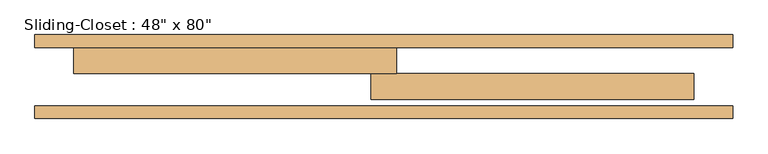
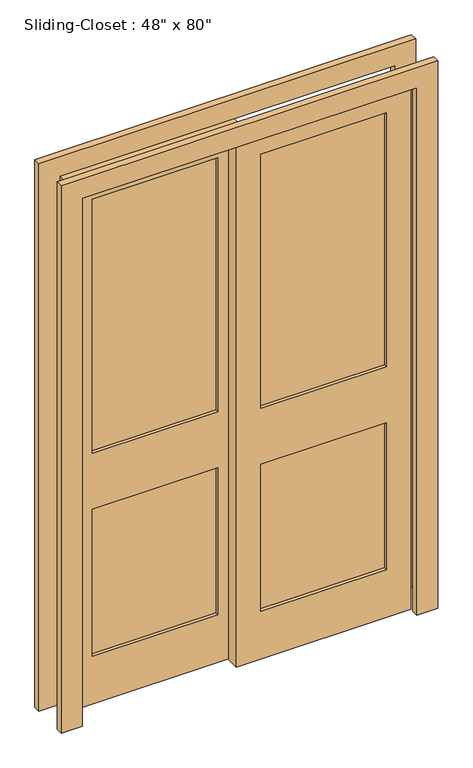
"""IFC4 building model written with IfcOpenShell, lengths in millimetres: door geometry."""

import ifcopenshell
import ifcopenshell.guid

model = None  # the IFC model being written
_history = None  # IfcOwnerHistory: only IFC2X3 demands one
_inside = {}  # id of a spatial element -> (the spatial element, [elements in it])
_under = {}  # id of a project, library or spatial element -> (it, [spatial elements below it])
_declared = {}  # id of a project -> (the project, [libraries it declares])
_typed = {}  # id of a type object -> (the type object, [elements of that type])
_made_of = {}  # id of a material, layer set ... -> (it, [elements and type objects made of it])


def new_model(schema):
    """Start an empty IFC model of exactly this schema.

    Asked for "IFC4X3", IfcOpenShell would pick the latest addendum, in which some entities
    have other attributes; the version numbers below select the first issue.
    IFC2X3 requires an IfcOwnerHistory on every rooted entity: one is made here for all.
    """
    global model, _history
    if schema == "IFC4X3":
        model = ifcopenshell.file(schema_version=(4, 3, 0, 0))
    else:
        model = ifcopenshell.file(schema=schema)
    _inside.clear()
    _under.clear()
    _declared.clear()
    _typed.clear()
    _made_of.clear()
    _history = None
    if model.schema == "IFC2X3":
        org = make("IfcOrganization", Name="unknown")
        user = make(
            "IfcPersonAndOrganization",
            ThePerson=make("IfcPerson", FamilyName="unknown"),
            TheOrganization=org,
        )
        app = make(
            "IfcApplication",
            ApplicationDeveloper=org,
            Version="unknown",
            ApplicationFullName="unknown",
            ApplicationIdentifier="unknown",
        )
        _history = make(
            "IfcOwnerHistory",
            OwningUser=user,
            OwningApplication=app,
            ChangeAction="ADDED",
            CreationDate=0,
        )
    return model


def make(cls, **values):
    """One entity of the class cls with the attributes given. An attribute that is None is left unset."""
    return model.create_entity(
        cls, **{name: value for name, value in values.items() if value is not None}
    )


def rooted(cls, **values):
    """An entity with a GlobalId (a new one), such as an element, a storey or a relation."""
    return make(cls, GlobalId=ifcopenshell.guid.new(), OwnerHistory=_history, **values)


def si_unit(unit_type, name, prefix=None):
    """IfcSIUnit, for example si_unit("LENGTHUNIT", "METRE", prefix="MILLI")."""
    return make("IfcSIUnit", UnitType=unit_type, Prefix=prefix, Name=name)


def assignment(units):
    """IfcUnitAssignment: the units of a project."""
    return None if units is None else make("IfcUnitAssignment", Units=units)


def point(xyz):
    """IfcCartesianPoint."""
    return None if xyz is None else make("IfcCartesianPoint", Coordinates=xyz)


def direction(xyz):
    """IfcDirection."""
    return None if xyz is None else make("IfcDirection", DirectionRatios=xyz)


def frame(location, z_axis=None, x_axis=None):
    """IfcAxis2Placement3D, a coordinate frame: its origin and axes. An axis left out is left unset."""
    return make(
        "IfcAxis2Placement3D",
        Location=point(location),
        Axis=direction(z_axis),
        RefDirection=direction(x_axis),
    )


def origin():
    """The frame at (0, 0, 0) with its axes left unset."""
    return frame((0.0, 0.0, 0.0))


def place(relative_to, where):
    """IfcLocalPlacement: puts the frame where relative to a parent placement (None: the world)."""
    return make(
        "IfcLocalPlacement", PlacementRelTo=relative_to, RelativePlacement=where
    )


def context(
    kind, dimensions, precision=None, world=None, true_north=None, identifier=None
):
    """IfcGeometricRepresentationContext, for example the 3D "Model" context."""
    return make(
        "IfcGeometricRepresentationContext",
        ContextIdentifier=identifier,
        ContextType=kind,
        CoordinateSpaceDimension=dimensions,
        Precision=precision,
        WorldCoordinateSystem=world,
        TrueNorth=true_north,
    )


def project(units=None, contexts=None):
    """IfcProject with its units and contexts."""
    return rooted(
        "IfcProject",
        Name="project",
        RepresentationContexts=contexts,
        UnitsInContext=assignment(units),
    )


def spatial(cls, under=None, at=None, **own):
    """A site, building, storey or space (cls), placed at a placement, below another one or the project."""
    s = rooted(cls, ObjectPlacement=at, **own)
    if under is not None:
        _under.setdefault(under.id(), (under, []))[1].append(s)
    return s


def polyline(points):
    """IfcPolyline through the points."""
    return make("IfcPolyline", Points=[point(p) for p in points])


def outline(outer, holes=None, kind="AREA"):
    """IfcArbitraryClosedProfileDef: a profile drawn as a closed curve; with holes, ...WithVoids."""
    if holes is None:
        return make("IfcArbitraryClosedProfileDef", ProfileType=kind, OuterCurve=outer)
    return make(
        "IfcArbitraryProfileDefWithVoids",
        ProfileType=kind,
        OuterCurve=outer,
        InnerCurves=holes,
    )


def extrude(swept, where, along, depth):
    """IfcExtrudedAreaSolid: the profile swept, set in the frame where, extruded along a direction by depth."""
    return make(
        "IfcExtrudedAreaSolid",
        SweptArea=swept,
        Position=where,
        ExtrudedDirection=direction(along),
        Depth=depth,
    )


def shape(context_of_items, identifier, shape_type, items):
    """IfcShapeRepresentation: the items that make up one representation, for example the "Body"."""
    return make(
        "IfcShapeRepresentation",
        ContextOfItems=context_of_items,
        RepresentationIdentifier=identifier,
        RepresentationType=shape_type,
        Items=items,
    )


def source(mapping_origin, context_of_items, identifier, shape_type, items):
    """IfcRepresentationMap: a shape defined once, which mapped items show again and again."""
    return make(
        "IfcRepresentationMap",
        MappingOrigin=mapping_origin,
        MappedRepresentation=shape(context_of_items, identifier, shape_type, items),
    )


def transform(
    local_origin,
    x_axis=None,
    y_axis=None,
    z_axis=None,
    scale=None,
    scale2=None,
    scale3=None,
    uniform=True,
):
    """IfcCartesianTransformationOperator3D, or its non-uniform kind. x_axis, y_axis, z_axis: its Axis1, 2, 3."""
    if uniform:
        return make(
            "IfcCartesianTransformationOperator3D",
            Axis1=direction(x_axis),
            Axis2=direction(y_axis),
            LocalOrigin=point(local_origin),
            Scale=scale,
            Axis3=direction(z_axis),
        )
    return make(
        "IfcCartesianTransformationOperator3DnonUniform",
        Axis1=direction(x_axis),
        Axis2=direction(y_axis),
        LocalOrigin=point(local_origin),
        Scale=scale,
        Axis3=direction(z_axis),
        Scale2=scale2,
        Scale3=scale3,
    )


def mapped(mapping_source, mapping_target):
    """IfcMappedItem: shows the shape of a source again, moved by a transform."""
    return make(
        "IfcMappedItem", MappingSource=mapping_source, MappingTarget=mapping_target
    )


def made_of(thing, what):
    """Note that an element or type object is made of a material, layer set ...; save() writes the relation."""
    if what is not None:
        _made_of.setdefault(what.id(), (what, []))[1].append(thing)
    return thing


def element(
    cls,
    number,
    at=None,
    inside=None,
    cuts=None,
    type_object=None,
    material=None,
    context=None,
    identifier="Body",
    shape_type=None,
    held_by="IfcProductDefinitionShape",
    body=None,
    shapes=None,
    **own,
):
    """One element of the class cls, such as IfcWall. Its Tag is "e" and its number.

    at: its placement. inside: the storey or other place that contains it. cuts: it is an
    opening in that element (IfcRelVoidsElement). A single representation is given by context,
    identifier, shape_type and body (its items); several are given by shapes. held_by: the class
    of the entity that holds the representations. save() writes the other relations.
    """
    e = rooted(cls, Tag="e%d" % number, ObjectPlacement=at, **own)
    if body is not None:
        shapes = [shape(context, identifier, shape_type, body)]
    if shapes is not None:
        e.Representation = make(held_by, Representations=shapes)
    if inside is not None:
        _inside.setdefault(inside.id(), (inside, []))[1].append(e)
    if cuts is not None:
        rooted(
            "IfcRelVoidsElement", RelatingBuildingElement=cuts, RelatedOpeningElement=e
        )
    if type_object is not None:
        _typed.setdefault(type_object.id(), (type_object, []))[1].append(e)
    return made_of(e, material)


def aggregate(whole, parts):
    """IfcRelAggregates: a whole, such as a stair, and the parts it consists of."""
    return rooted("IfcRelAggregates", RelatingObject=whole, RelatedObjects=parts)


def save(model, path):
    """Write the relations noted so far, then the file.

    IfcRelAggregates (storeys below a building ...), IfcRelContainedInSpatialStructure (elements
    in a storey), IfcRelDefinesByType, IfcRelAssociatesMaterial and IfcRelDeclares: one each for
    every whole, place, type object, material and project.
    """
    for whole, parts in _under.values():
        aggregate(whole, parts)
    for where, things in _inside.values():
        rooted(
            "IfcRelContainedInSpatialStructure",
            RelatedElements=things,
            RelatingStructure=where,
        )
    for kind, things in _typed.values():
        rooted("IfcRelDefinesByType", RelatedObjects=things, RelatingType=kind)
    for what, things in _made_of.values():
        rooted("IfcRelAssociatesMaterial", RelatedObjects=things, RelatingMaterial=what)
    for by, libraries in _declared.values():
        rooted("IfcRelDeclares", RelatingContext=by, RelatedDefinitions=libraries)
    model.write(path)


def door_900f836f(model_context):
    return source(origin(), model_context, "Body", "SweptSolid", [
        extrude(outline(polyline([(-63.5, 146.05), (-520.7, 146.05), (-520.7, 171.45), (-63.5, 171.45), (-63.5, 146.05)])), frame((0.0, 0.0, 965.2), z_axis=(0.0, 0.0, 1.0), x_axis=(1.0, 0.0, 0.0)), (0.0, 0.0, 1.0), 977.9),
        extrude(outline(polyline([(-63.5, 146.05), (-520.7, 146.05), (-520.7, 171.45), (-63.5, 171.45), (-63.5, 146.05)])), frame((0.0, 0.0, 184.15), z_axis=(0.0, 0.0, 1.0), x_axis=(1.0, 0.0, 0.0)), (0.0, 0.0, 1.0), 565.15),
        extrude(outline(polyline([(63.5, 120.65), (520.7, 120.65), (520.7, 95.25), (63.5, 95.25), (63.5, 120.65)])), frame((0.0, 0.0, 965.2), z_axis=(0.0, 0.0, 1.0), x_axis=(1.0, 0.0, 0.0)), (0.0, 0.0, 1.0), 977.9),
        extrude(outline(polyline([(63.5, 120.65), (520.7, 120.65), (520.7, 95.25), (63.5, 95.25), (63.5, 120.65)])), frame((0.0, 0.0, 184.15), z_axis=(0.0, 0.0, 1.0), x_axis=(1.0, 0.0, 0.0)), (0.0, 0.0, 1.0), 565.15),
        extrude(outline(polyline([(2032.0, 25.4), (2032.0, -609.6), (0.0, -609.6), (0.0, 25.4), (2032.0, 25.4)]), holes=[polyline([(184.15, -520.7), (749.3, -520.7), (749.3, -63.5), (184.15, -63.5), (184.15, -520.7)]), polyline([(965.2, -520.7), (1943.1, -520.7), (1943.1, -63.5), (965.2, -63.5), (965.2, -520.7)])]), frame((0.0, 133.35, 0.0), z_axis=(0.0, 1.0, 0.0), x_axis=(0.0, 0.0, 1.0)), (0.0, 0.0, 1.0), 50.8),
        extrude(outline(polyline([(0.0, -685.8), (0.0, -609.6), (2032.0, -609.6), (2032.0, 609.6), (0.0, 609.6), (0.0, 685.8), (2108.2, 685.8), (2108.2, -685.8), (0.0, -685.8)])), frame((0.0, 44.45, 0.0), z_axis=(0.0, 1.0, 0.0), x_axis=(0.0, 0.0, 1.0)), (0.0, 0.0, 1.0), 25.4),
        extrude(outline(polyline([(0.0, 685.8), (2108.2, 685.8), (2108.2, -685.8), (0.0, -685.8), (0.0, -609.6), (2032.0, -609.6), (2032.0, 609.6), (0.0, 609.6), (0.0, 685.8)])), frame((0.0, 184.15, 0.0), z_axis=(0.0, 1.0, 0.0), x_axis=(0.0, 0.0, 1.0)), (0.0, 0.0, 1.0), 25.4),
        extrude(outline(polyline([(2032.0, -25.4), (0.0, -25.4), (0.0, 609.6), (2032.0, 609.6), (2032.0, -25.4)]), holes=[polyline([(965.2, 520.7), (965.2, 63.5), (1943.1, 63.5), (1943.1, 520.7), (965.2, 520.7)]), polyline([(184.15, 520.7), (184.15, 63.5), (749.3, 63.5), (749.3, 520.7), (184.15, 520.7)])]), frame((0.0, 82.55, 0.0), z_axis=(0.0, 1.0, 0.0), x_axis=(0.0, 0.0, 1.0)), (0.0, 0.0, 1.0), 50.8),
    ])


if __name__ == "__main__":
    model = new_model("IFC4")
    model_context = context("Model", 3, world=origin())
    ifc_project = project(units=[si_unit("LENGTHUNIT", "METRE", prefix="MILLI")], contexts=[model_context])
    site = spatial("IfcSite", under=ifc_project)
    building = spatial("IfcBuilding", under=site)
    placement = place(None, origin())
    door_shape = door_900f836f(model_context)
    element("IfcDoor", 1, ObjectType="Sliding-Closet : 48\" x 80\"", at=placement, inside=building, context=model_context, shape_type="MappedRepresentation", body=[
        mapped(door_shape, transform((0.0, 0.0, 0.0), x_axis=(1.0, 0.0, 0.0), y_axis=(0.0, 1.0, 0.0), z_axis=(0.0, 0.0, 1.0))),
    ])
    save(model, "model.ifc")
